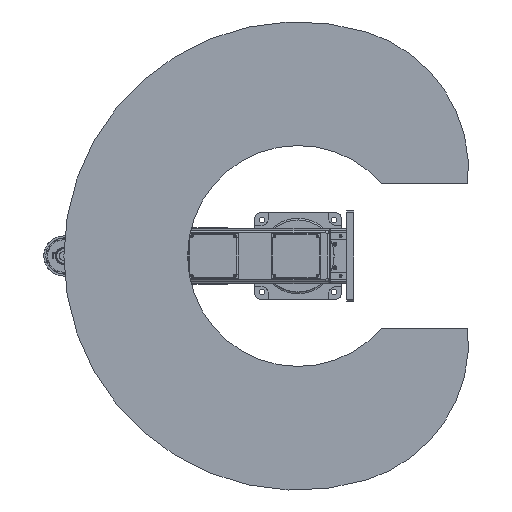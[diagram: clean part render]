
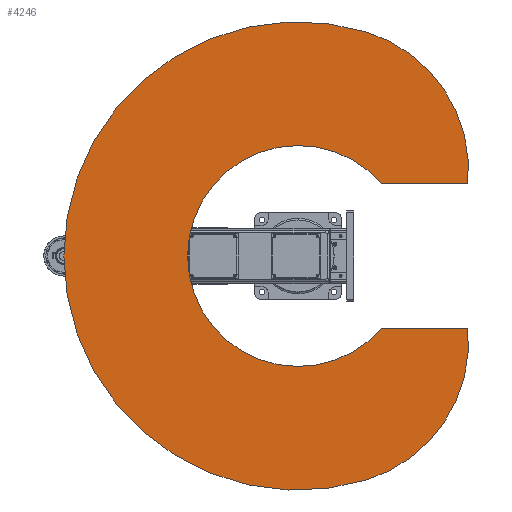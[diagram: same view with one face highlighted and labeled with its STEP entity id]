
A CAD part, front view. The second image highlights one B-rep face of the part: STEP entity #4246.
In plain terms, the highlighted planar face has unit normal (0, -1, 0).
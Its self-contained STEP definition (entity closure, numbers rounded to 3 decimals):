
#4246 = ADVANCED_FACE( '', ( #10556 ), #10557, .F. );
#10556 = FACE_OUTER_BOUND( '', #20037, .T. );
#10557 = PLANE( '', #20038 );
#20037 = EDGE_LOOP( '', ( #33297, #33298, #33299, #33300, #33301, #33302 ) );
#20038 = AXIS2_PLACEMENT_3D( '', #33303, #33304, #33305 );
#33297 = ORIENTED_EDGE( '', *, *, #49985, .F. );
#33298 = ORIENTED_EDGE( '', *, *, #52206, .F. );
#33299 = ORIENTED_EDGE( '', *, *, #50231, .T. );
#33300 = ORIENTED_EDGE( '', *, *, #52207, .F. );
#33301 = ORIENTED_EDGE( '', *, *, #52208, .F. );
#33302 = ORIENTED_EDGE( '', *, *, #52209, .F. );
#33303 = CARTESIAN_POINT( '', ( 239.076, 0., 73.093 ) );
#33304 = DIRECTION( '', ( 0., 1., 0. ) );
#33305 = DIRECTION( '', ( 0., 0., 1. ) );
#49985 = EDGE_CURVE( '', #59141, #59142, #59143, .T. );
#50231 = EDGE_CURVE( '', #59549, #59550, #59551, .T. );
#52206 = EDGE_CURVE( '', #59549, #59141, #62767, .T. );
#52207 = EDGE_CURVE( '', #62768, #59550, #62769, .T. );
#52208 = EDGE_CURVE( '', #62770, #62768, #62771, .T. );
#52209 = EDGE_CURVE( '', #59142, #62770, #62772, .T. );
#59141 = VERTEX_POINT( '', #72500 );
#59142 = VERTEX_POINT( '', #72501 );
#59143 = CIRCLE( '', #72502, 400. );
#59549 = VERTEX_POINT( '', #73128 );
#59550 = VERTEX_POINT( '', #73129 );
#59551 = CIRCLE( '', #73130, 306.5 );
#62767 = LINE( '', #78504, #78505 );
#62768 = VERTEX_POINT( '', #78506 );
#62769 = LINE( '', #78507, #78508 );
#62770 = VERTEX_POINT( '', #78509 );
#62771 = CIRCLE( '', #78510, 400. );
#62772 = CIRCLE( '', #78511, 650. );
#72500 = CARTESIAN_POINT( '', ( 200., 0., 471.18 ) );
#72501 = CARTESIAN_POINT( '', ( 621.598, 0., 190.042 ) );
#72502 = AXIS2_PLACEMENT_3D( '', #90649, #90650, #90651 );
#73128 = CARTESIAN_POINT( '', ( 200., 0., 232.255 ) );
#73129 = CARTESIAN_POINT( '', ( -200., 0., 232.255 ) );
#73130 = AXIS2_PLACEMENT_3D( '', #90950, #90951, #90952 );
#78504 = CARTESIAN_POINT( '', ( 200., 0., 232.255 ) );
#78505 = VECTOR( '', #93383, 1000. );
#78506 = CARTESIAN_POINT( '', ( -200., 0., 471.18 ) );
#78507 = CARTESIAN_POINT( '', ( -200., 0., 471.18 ) );
#78508 = VECTOR( '', #93384, 1000. );
#78509 = CARTESIAN_POINT( '', ( -621.598, 0., 190.042 ) );
#78510 = AXIS2_PLACEMENT_3D( '', #93385, #93386, #93387 );
#78511 = AXIS2_PLACEMENT_3D( '', #93388, #93389, #93390 );
#90649 = CARTESIAN_POINT( '', ( 239.076, 0., 73.093 ) );
#90650 = DIRECTION( '', ( 0., 1., 0. ) );
#90651 = DIRECTION( '', ( 1., 0., 0. ) );
#90950 = CARTESIAN_POINT( '', ( 0., 0., 0. ) );
#90951 = DIRECTION( '', ( 0., 1., 0. ) );
#90952 = DIRECTION( '', ( 1., 0., 0. ) );
#93383 = DIRECTION( '', ( 0., 0., 1. ) );
#93384 = DIRECTION( '', ( 0., 0., -1. ) );
#93385 = CARTESIAN_POINT( '', ( -239.076, 0., 73.093 ) );
#93386 = DIRECTION( '', ( 0., 1., 0. ) );
#93387 = DIRECTION( '', ( 1., 0., 0. ) );
#93388 = CARTESIAN_POINT( '', ( 0., 0., 0. ) );
#93389 = DIRECTION( '', ( 0., 1., 0. ) );
#93390 = DIRECTION( '', ( 1., 0., 0. ) );
